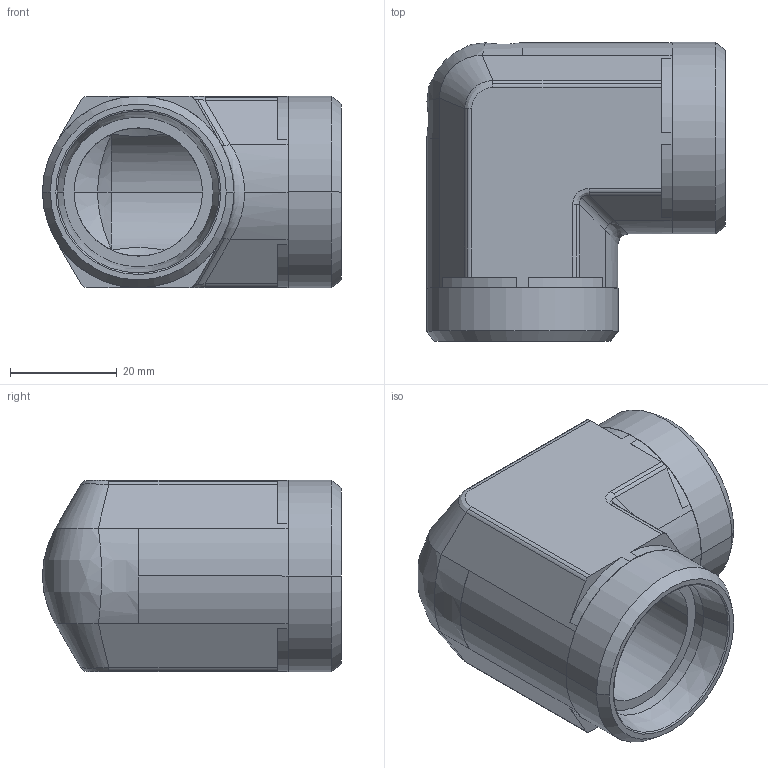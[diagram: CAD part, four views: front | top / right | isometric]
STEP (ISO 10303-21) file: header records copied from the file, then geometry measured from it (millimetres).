
FILE_DESCRIPTION((''),'2;1');
FILE_NAME('103811.stp','2007-10-31T11:53:15',(''),(''),'AutoCAD STEP 2000i','AutoCAD 2000i',', , ');
FILE_SCHEMA(('CONFIG_CONTROL_DESIGN'));
Length unit declared in the file: millimetre
Products named in the file (2): 103811.0; 3090#0
Assembly tree (1 placements, depth 2):
  103811.0
    3090#0
Bounding box: 55.91 x 55.91 x 35.82 mm (x, y, z)
Volume: 41959.4 mm3; surface area: 15461.1 mm2
Topology: 1 solids, 1 shells, 120 faces, 282 edges, 166 vertices
Faces by surface type: cylinder 52, plane 34, cone 20, bspline 14
Entity records: 4412 total; most frequent: CARTESIAN_POINT 1533, DIRECTION 621, ORIENTED_EDGE 564, EDGE_CURVE 282, AXIS2_PLACEMENT_3D 250, VERTEX_POINT 166, CIRCLE 124, EDGE_LOOP 124
